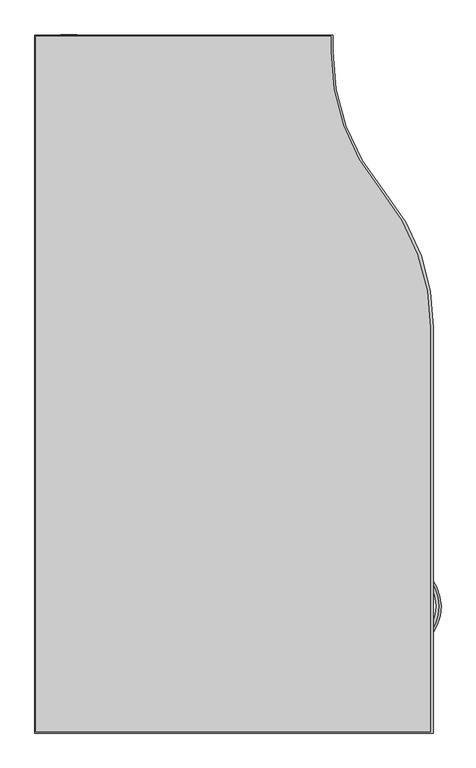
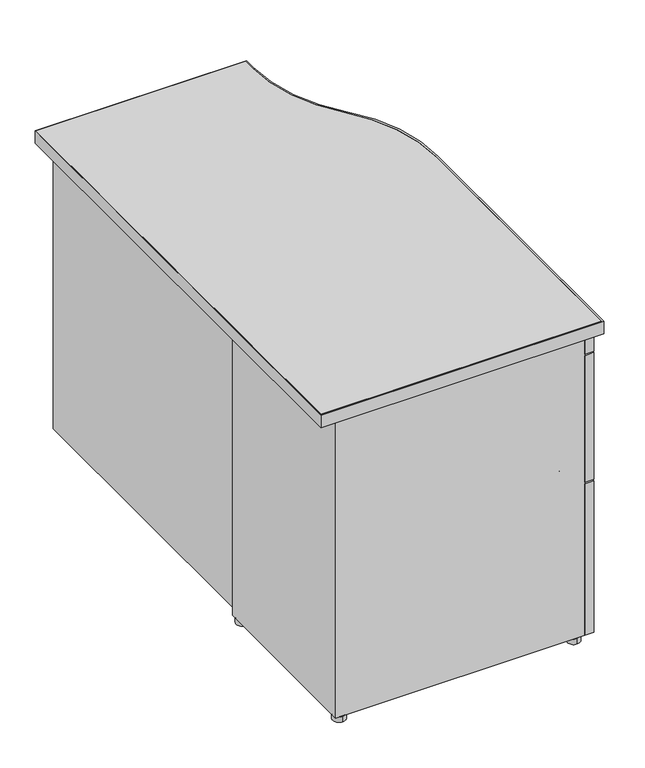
"""IFC4 building model written with IfcOpenShell, lengths in millimetres: furniture geometry, Steelcase - Kick Freestanding - Desk - Single Pedestal Transition Return - Full Modesty Panel : 18D x 42W - Left - File/File."""

from ifc_helpers import new_model, si_unit, point, frame, frame_2d, origin, origin_with_axes, place, context, project, spatial, polyline, circle_curve, ellipse_curve, trimmed, segment, composite_curve, outline, extrude, source, transform, mapped, element, save
from ifc_brep_helpers import plane_surface, cylinder_surface, revolved_surface, extruded_surface, advanced_brep


def furniture_ecf0446c(model_context):
    return source(origin(), model_context, "Body", "SolidModel", [
        advanced_brep(
        [(2760.5907209, -1469.2132511, 586.4818798), (2760.5907209, -1469.2132511, 569.2783404), (2759.9247042, -1370.0632386, 586.4818798), (2759.9247042, -1370.0632386, 569.2783404)],
        [
            (0, 1, ellipse_curve(frame((2760.5907209, -1469.2132511, 577.8801101), z_axis=(-0.7327226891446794, -0.6805273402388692, 0.0), x_axis=(0.0, 0.0, -1.0)), 8.6017697, 3.6448177)),
            (1, 0, ellipse_curve(frame((2760.5907209, -1469.2132511, 577.8801101), z_axis=(-0.7327226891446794, -0.6805273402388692, 0.0), x_axis=(0.0, 0.0, -1.0)), 8.6017697, 3.6448177)),
            (2, 3, ellipse_curve(frame((2759.9247042, -1370.0632386, 577.8801101), z_axis=(-0.7417987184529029, 0.670622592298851, 0.0), x_axis=(0.0, 0.0, -1.0)), 8.6017697, 3.6448177)),
            (3, 2, ellipse_curve(frame((2759.9247042, -1370.0632386, 577.8801101), z_axis=(-0.7417987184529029, 0.670622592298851, 0.0), x_axis=(0.0, 0.0, -1.0)), 8.6017697, 3.6448177)),
            (3, 1, circle_curve(frame((2714.8305889, -1419.9433908, 569.2783404), z_axis=(0.0, 0.0, -1.0), x_axis=(0.6805273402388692, -0.7327226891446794, 0.0)), 67.2421655)),
            (0, 2, circle_curve(frame((2714.8305889, -1419.9433908, 586.4818798), z_axis=(0.0, 0.0, 1.0), x_axis=(0.6805273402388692, -0.7327226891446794, 0.0)), 67.2421655)),
        ],
        [
            plane_surface(frame((2761.3542952, -1470.0353903, 0.0), z_axis=(-0.7327226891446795, -0.6805273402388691, 0.0), x_axis=(0.0, 0.0, 1.0))),
            plane_surface(frame((2760.6771651, -1369.2309157, 0.0), z_axis=(-0.7417987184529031, 0.6706225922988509, 0.0), x_axis=(0.0, 0.0, 1.0))),
            revolved_surface(trimmed(ellipse_curve(frame((2760.5907209, -1469.2132511, 577.8801101), z_axis=(-0.7327226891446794, -0.6805273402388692, 0.0), x_axis=(0.0, 0.0, -1.0)), 8.6017697, 3.6448177), [point((2760.5907209, -1469.2132511, 586.4818798))], [point((2760.5907209, -1469.2132511, 569.2783404))], True, "CARTESIAN"), (2714.8305889, -1419.9433908, 0.0), (0.0, 0.0, 1.0)),
            revolved_surface(trimmed(ellipse_curve(frame((2760.5907209, -1469.2132511, 577.8801101), z_axis=(-0.7327226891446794, -0.6805273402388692, 0.0), x_axis=(0.0, 0.0, -1.0)), 8.6017697, 3.6448177), [point((2760.5907209, -1469.2132511, 569.2783404))], [point((2760.5907209, -1469.2132511, 586.4818798))], True, "CARTESIAN"), (2714.8305889, -1419.9433908, 0.0), (0.0, 0.0, 1.0)),
        ],
        [
            (0, [[1, 2]]),
            (1, [[3, 4]]),
            (2, [[5, -1, 6, -4]]),
            (3, [[-6, -2, -5, -3]]),
        ],
    ),
        advanced_brep(
        [(2760.5907209, -1469.2132511, 293.5881298), (2760.5907209, -1469.2132511, 276.3845904), (2759.9247042, -1370.0632386, 293.5881298), (2759.9247042, -1370.0632386, 276.3845904)],
        [
            (0, 1, ellipse_curve(frame((2760.5907209, -1469.2132511, 284.9863601), z_axis=(-0.7327226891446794, -0.6805273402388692, 0.0), x_axis=(0.0, 0.0, -1.0)), 8.6017697, 3.6448177)),
            (1, 0, ellipse_curve(frame((2760.5907209, -1469.2132511, 284.9863601), z_axis=(-0.7327226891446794, -0.6805273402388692, 0.0), x_axis=(0.0, 0.0, -1.0)), 8.6017697, 3.6448177)),
            (2, 3, ellipse_curve(frame((2759.9247042, -1370.0632386, 284.9863601), z_axis=(-0.7417987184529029, 0.670622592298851, 0.0), x_axis=(0.0, 0.0, -1.0)), 8.6017697, 3.6448177)),
            (3, 2, ellipse_curve(frame((2759.9247042, -1370.0632386, 284.9863601), z_axis=(-0.7417987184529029, 0.670622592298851, 0.0), x_axis=(0.0, 0.0, -1.0)), 8.6017697, 3.6448177)),
            (3, 1, circle_curve(frame((2714.8305889, -1419.9433908, 276.3845904), z_axis=(0.0, 0.0, -1.0), x_axis=(0.6805273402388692, -0.7327226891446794, 0.0)), 67.2421655)),
            (0, 2, circle_curve(frame((2714.8305889, -1419.9433908, 293.5881298), z_axis=(0.0, 0.0, 1.0), x_axis=(0.6805273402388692, -0.7327226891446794, 0.0)), 67.2421655)),
        ],
        [
            plane_surface(frame((2761.3542952, -1470.0353903, 0.0), z_axis=(-0.7327226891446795, -0.6805273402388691, 0.0), x_axis=(0.0, 0.0, 1.0))),
            plane_surface(frame((2760.6771651, -1369.2309157, 0.0), z_axis=(-0.7417987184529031, 0.6706225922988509, 0.0), x_axis=(0.0, 0.0, 1.0))),
            revolved_surface(trimmed(ellipse_curve(frame((2760.5907209, -1469.2132511, 284.9863601), z_axis=(-0.7327226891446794, -0.6805273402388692, 0.0), x_axis=(0.0, 0.0, -1.0)), 8.6017697, 3.6448177), [point((2760.5907209, -1469.2132511, 293.5881298))], [point((2760.5907209, -1469.2132511, 276.3845904))], True, "CARTESIAN"), (2714.8305889, -1419.9433908, 0.0), (0.0, 0.0, 1.0)),
            revolved_surface(trimmed(ellipse_curve(frame((2760.5907209, -1469.2132511, 284.9863601), z_axis=(-0.7327226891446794, -0.6805273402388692, 0.0), x_axis=(0.0, 0.0, -1.0)), 8.6017697, 3.6448177), [point((2760.5907209, -1469.2132511, 276.3845904))], [point((2760.5907209, -1469.2132511, 293.5881298))], True, "CARTESIAN"), (2714.8305889, -1419.9433908, 0.0), (0.0, 0.0, 1.0)),
        ],
        [
            (0, [[1, 2]]),
            (1, [[3, 4]]),
            (2, [[5, -1, 6, -4]]),
            (3, [[-6, -2, -5, -3]]),
        ],
    ),
        advanced_brep(
        [(2762.8455764, -1276.6380273, 671.1566635), (2762.8455764, -1256.3180273, 671.1566635), (2759.7468248, -1276.6380273, 671.1566635), (2759.7468248, -1256.3180273, 671.1566635)],
        [
            (0, 1, circle_curve(frame((2762.8455764, -1266.4780273, 671.1566635), z_axis=(1.0, 0.0, 0.0), x_axis=(0.0, 1.0, 0.0)), 10.16)),
            (1, 0, circle_curve(frame((2762.8455764, -1266.4780273, 671.1566635), z_axis=(1.0, 0.0, 0.0), x_axis=(0.0, 1.0, 0.0)), 10.16)),
            (2, 3, circle_curve(frame((2759.7468248, -1266.4780273, 671.1566635), z_axis=(-1.0, 0.0, 0.0), x_axis=(0.0, 1.0, 0.0)), 10.16)),
            (3, 2, circle_curve(frame((2759.7468248, -1266.4780273, 671.1566635), z_axis=(-1.0, 0.0, 0.0), x_axis=(0.0, 1.0, 0.0)), 10.16)),
            (0, 2),
            (3, 1),
        ],
        [
            plane_surface(frame((2762.8455764, -1256.3180273, 671.1566635), z_axis=(1.0, 0.0, 0.0), x_axis=(0.0, 0.0, 1.0))),
            plane_surface(frame((2759.7468248, -1256.3180273, 671.1566635), z_axis=(-1.0, 0.0, 0.0), x_axis=(0.0, 0.0, -1.0))),
            cylinder_surface(frame((2759.7468248, -1266.4780273, 671.1566635), z_axis=(1.0, 0.0, 0.0), x_axis=(0.0, 1.0, 0.0)), 10.16),
        ],
        [
            (0, [[1, 2]]),
            (1, [[3, 4]]),
            (2, [[-1, 5, -4, 6]]),
            (2, [[-2, -6, -3, -5]]),
        ],
    ),
        advanced_brep(
        [(2762.8455764, -1467.8140492, 589.4466513), (2762.8455764, -1467.8140492, 566.5866513), (2759.7468248, -1467.8140492, 589.4466513), (2759.7468248, -1467.8140492, 566.5866513)],
        [
            (0, 1, ellipse_curve(frame((2762.8455764, -1467.8140492, 578.0166513), z_axis=(1.0, 0.0, 0.0), x_axis=(0.0, 0.0, -1.0)), 11.43, 8.0054005)),
            (1, 0, ellipse_curve(frame((2762.8455764, -1467.8140492, 578.0166513), z_axis=(1.0, 0.0, 0.0), x_axis=(0.0, 0.0, -1.0)), 11.43, 8.0054005)),
            (2, 3, ellipse_curve(frame((2759.7468248, -1467.8140492, 578.0166513), z_axis=(-1.0, 0.0, 0.0), x_axis=(0.0, 0.0, -1.0)), 11.43, 8.0054005)),
            (3, 2, ellipse_curve(frame((2759.7468248, -1467.8140492, 578.0166513), z_axis=(-1.0, 0.0, 0.0), x_axis=(0.0, 0.0, -1.0)), 11.43, 8.0054005)),
            (0, 2),
            (3, 1),
        ],
        [
            plane_surface(frame((2762.8455764, -1256.3180273, 671.1566635), z_axis=(1.0, 0.0, 0.0), x_axis=(0.0, 0.0, 1.0))),
            plane_surface(frame((2759.7468248, -1256.3180273, 671.1566635), z_axis=(-1.0, 0.0, 0.0), x_axis=(0.0, 0.0, -1.0))),
            extruded_surface(trimmed(ellipse_curve(frame((2755.7590248, -1467.8140492, 578.0166513), z_axis=(1.0, 0.0, 0.0), x_axis=(0.0, 0.0, -1.0)), 11.43, 8.0054005), [point((2755.7590248, -1467.8140492, 589.4466513))], [point((2755.7590248, -1467.8140492, 566.5866513))], True, "CARTESIAN"), (3.098751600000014, 0.0, 0.0), 3.098751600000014),
            extruded_surface(trimmed(ellipse_curve(frame((2755.7590248, -1467.8140492, 578.0166513), z_axis=(1.0, 0.0, 0.0), x_axis=(0.0, 0.0, -1.0)), 11.43, 8.0054005), [point((2755.7590248, -1467.8140492, 566.5866513))], [point((2755.7590248, -1467.8140492, 589.4466513))], True, "CARTESIAN"), (3.098751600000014, 0.0, 0.0), 3.098751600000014),
        ],
        [
            (0, [[1, 2]]),
            (1, [[3, 4]]),
            (2, [[-1, 5, -4, 6]]),
            (3, [[-2, -6, -3, -5]]),
        ],
    ),
        advanced_brep(
        [(2762.8455764, -1370.4852323, 589.4466513), (2762.8455764, -1370.4852323, 566.5866513), (2759.7468248, -1370.4852323, 589.4466513), (2759.7468248, -1370.4852323, 566.5866513)],
        [
            (0, 1, ellipse_curve(frame((2762.8455764, -1370.4852323, 578.0166513), z_axis=(1.0, 0.0, 0.0), x_axis=(0.0, 0.0, -1.0)), 11.43, 8.0054005)),
            (1, 0, ellipse_curve(frame((2762.8455764, -1370.4852323, 578.0166513), z_axis=(1.0, 0.0, 0.0), x_axis=(0.0, 0.0, -1.0)), 11.43, 8.0054005)),
            (2, 3, ellipse_curve(frame((2759.7468248, -1370.4852323, 578.0166513), z_axis=(-1.0, 0.0, 0.0), x_axis=(0.0, 0.0, -1.0)), 11.43, 8.0054005)),
            (3, 2, ellipse_curve(frame((2759.7468248, -1370.4852323, 578.0166513), z_axis=(-1.0, 0.0, 0.0), x_axis=(0.0, 0.0, -1.0)), 11.43, 8.0054005)),
            (0, 2),
            (3, 1),
        ],
        [
            plane_surface(frame((2762.8455764, -1256.3180273, 671.1566635), z_axis=(1.0, 0.0, 0.0), x_axis=(0.0, 0.0, 1.0))),
            plane_surface(frame((2759.7468248, -1256.3180273, 671.1566635), z_axis=(-1.0, 0.0, 0.0), x_axis=(0.0, 0.0, -1.0))),
            extruded_surface(trimmed(ellipse_curve(frame((2755.7590248, -1370.4852323, 578.0166513), z_axis=(1.0, 0.0, 0.0), x_axis=(0.0, 0.0, -1.0)), 11.43, 8.0054005), [point((2755.7590248, -1370.4852323, 589.4466513))], [point((2755.7590248, -1370.4852323, 566.5866513))], True, "CARTESIAN"), (3.098751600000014, 0.0, 0.0), 3.098751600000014),
            extruded_surface(trimmed(ellipse_curve(frame((2755.7590248, -1370.4852323, 578.0166513), z_axis=(1.0, 0.0, 0.0), x_axis=(0.0, 0.0, -1.0)), 11.43, 8.0054005), [point((2755.7590248, -1370.4852323, 566.5866513))], [point((2755.7590248, -1370.4852323, 589.4466513))], True, "CARTESIAN"), (3.098751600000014, 0.0, 0.0), 3.098751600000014),
        ],
        [
            (0, [[1, 2]]),
            (1, [[3, 4]]),
            (2, [[-1, 5, -4, 6]]),
            (3, [[-2, -6, -3, -5]]),
        ],
    ),
        advanced_brep(
        [(2762.8455764, -1466.5790775, 296.5864566), (2762.8455764, -1466.5790775, 273.7264566), (2759.7468248, -1466.5790775, 296.5864566), (2759.7468248, -1466.5790775, 273.7264566)],
        [
            (0, 1, ellipse_curve(frame((2762.8455764, -1466.5790775, 285.1564566), z_axis=(1.0, 0.0, 0.0), x_axis=(0.0, 0.0, -1.0)), 11.43, 8.0054005)),
            (1, 0, ellipse_curve(frame((2762.8455764, -1466.5790775, 285.1564566), z_axis=(1.0, 0.0, 0.0), x_axis=(0.0, 0.0, -1.0)), 11.43, 8.0054005)),
            (2, 3, ellipse_curve(frame((2759.7468248, -1466.5790775, 285.1564566), z_axis=(-1.0, 0.0, 0.0), x_axis=(0.0, 0.0, -1.0)), 11.43, 8.0054005)),
            (3, 2, ellipse_curve(frame((2759.7468248, -1466.5790775, 285.1564566), z_axis=(-1.0, 0.0, 0.0), x_axis=(0.0, 0.0, -1.0)), 11.43, 8.0054005)),
            (0, 2),
            (3, 1),
        ],
        [
            plane_surface(frame((2762.8455764, -1256.3180273, 671.1566635), z_axis=(1.0, 0.0, 0.0), x_axis=(0.0, 0.0, 1.0))),
            plane_surface(frame((2759.7468248, -1256.3180273, 671.1566635), z_axis=(-1.0, 0.0, 0.0), x_axis=(0.0, 0.0, -1.0))),
            extruded_surface(trimmed(ellipse_curve(frame((2755.7590248, -1466.5790775, 285.1564566), z_axis=(1.0, 0.0, 0.0), x_axis=(0.0, 0.0, -1.0)), 11.43, 8.0054005), [point((2755.7590248, -1466.5790775, 296.5864566))], [point((2755.7590248, -1466.5790775, 273.7264566))], True, "CARTESIAN"), (3.098751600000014, 0.0, 0.0), 3.098751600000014),
            extruded_surface(trimmed(ellipse_curve(frame((2755.7590248, -1466.5790775, 285.1564566), z_axis=(1.0, 0.0, 0.0), x_axis=(0.0, 0.0, -1.0)), 11.43, 8.0054005), [point((2755.7590248, -1466.5790775, 273.7264566))], [point((2755.7590248, -1466.5790775, 296.5864566))], True, "CARTESIAN"), (3.098751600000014, 0.0, 0.0), 3.098751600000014),
        ],
        [
            (0, [[1, 2]]),
            (1, [[3, 4]]),
            (2, [[-1, 5, -4, 6]]),
            (3, [[-2, -6, -3, -5]]),
        ],
    ),
        advanced_brep(
        [(2762.8455764, -1369.2502606, 296.5864566), (2762.8455764, -1369.2502606, 273.7264566), (2759.7468248, -1369.2502606, 296.5864566), (2759.7468248, -1369.2502606, 273.7264566)],
        [
            (0, 1, ellipse_curve(frame((2762.8455764, -1369.2502606, 285.1564566), z_axis=(1.0, 0.0, 0.0), x_axis=(0.0, 0.0, -1.0)), 11.43, 8.0054005)),
            (1, 0, ellipse_curve(frame((2762.8455764, -1369.2502606, 285.1564566), z_axis=(1.0, 0.0, 0.0), x_axis=(0.0, 0.0, -1.0)), 11.43, 8.0054005)),
            (2, 3, ellipse_curve(frame((2759.7468248, -1369.2502606, 285.1564566), z_axis=(-1.0, 0.0, 0.0), x_axis=(0.0, 0.0, -1.0)), 11.43, 8.0054005)),
            (3, 2, ellipse_curve(frame((2759.7468248, -1369.2502606, 285.1564566), z_axis=(-1.0, 0.0, 0.0), x_axis=(0.0, 0.0, -1.0)), 11.43, 8.0054005)),
            (0, 2),
            (3, 1),
        ],
        [
            plane_surface(frame((2762.8455764, -1256.3180273, 671.1566635), z_axis=(1.0, 0.0, 0.0), x_axis=(0.0, 0.0, 1.0))),
            plane_surface(frame((2759.7468248, -1256.3180273, 671.1566635), z_axis=(-1.0, 0.0, 0.0), x_axis=(0.0, 0.0, -1.0))),
            extruded_surface(trimmed(ellipse_curve(frame((2755.7590248, -1369.2502606, 285.1564566), z_axis=(1.0, 0.0, 0.0), x_axis=(0.0, 0.0, -1.0)), 11.43, 8.0054005), [point((2755.7590248, -1369.2502606, 296.5864566))], [point((2755.7590248, -1369.2502606, 273.7264566))], True, "CARTESIAN"), (3.098751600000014, 0.0, 0.0), 3.098751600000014),
            extruded_surface(trimmed(ellipse_curve(frame((2755.7590248, -1369.2502606, 285.1564566), z_axis=(1.0, 0.0, 0.0), x_axis=(0.0, 0.0, -1.0)), 11.43, 8.0054005), [point((2755.7590248, -1369.2502606, 273.7264566))], [point((2755.7590248, -1369.2502606, 296.5864566))], True, "CARTESIAN"), (3.098751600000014, 0.0, 0.0), 3.098751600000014),
        ],
        [
            (0, [[1, 2]]),
            (1, [[3, 4]]),
            (2, [[-1, 5, -4, 6]]),
            (3, [[-2, -6, -3, -5]]),
        ],
    ),
        extrude(outline(polyline([(2759.7468248, -1215.3776054), (2759.7468248, -1600.3145982), (2739.8077764, -1600.3145982), (2739.8077764, -1215.3776054), (2759.7468248, -1215.3776054)])), frame((0.0, 0.0, 360.6545895), z_axis=(0.0, 0.0, 1.0), x_axis=(1.0, 0.0, 0.0)), (0.0, 0.0, 1.0), 288.9250242),
        extrude(outline(polyline([(2759.7468248, -1215.3776054), (2759.7468248, -1600.3145982), (2739.8077764, -1600.3145982), (2739.8077764, -1215.3776054), (2759.7468248, -1215.3776054)])), frame((0.0, 0.0, 12.7), z_axis=(0.0, 0.0, 1.0), x_axis=(1.0, 0.0, 0.0)), (0.0, 0.0, 1.0), 344.7796016),
        extrude(outline(polyline([(2759.7468248, -1215.3776054), (2759.7468248, -1600.3145982), (2739.8077764, -1600.3145982), (2739.8077764, -1215.3776054), (2759.7468248, -1215.3776054)])), frame((0.0, 0.0, 652.7545653), z_axis=(0.0, 0.0, 1.0), x_axis=(1.0, 0.0, 0.0)), (0.0, 0.0, 1.0), 40.6400339),
        extrude(outline(composite_curve([segment(trimmed(circle_curve(frame_2d((2217.7074425, -1587.7382652)), 13.97), [point((2217.7074425, -1601.7082652))], [point((2217.7074425, -1573.7682652))], False, "CARTESIAN"), True, "CONTINUOUS"), segment(trimmed(circle_curve(frame_2d((2217.7074425, -1587.7382652)), 13.97), [point((2217.7074425, -1573.7682652))], [point((2217.7074425, -1601.7082652))], False, "CARTESIAN"), True, "CONTINUOUS")], self_intersect=False)), origin_with_axes(), (0.0, 0.0, 1.0), 12.446),
        extrude(outline(composite_curve([segment(trimmed(circle_curve(frame_2d((2722.6594425, -1587.7382652)), 13.97), [point((2722.6594425, -1601.7082652))], [point((2722.6594425, -1573.7682652))], False, "CARTESIAN"), True, "CONTINUOUS"), segment(trimmed(circle_curve(frame_2d((2722.6594425, -1587.7382652)), 13.97), [point((2722.6594425, -1573.7682652))], [point((2722.6594425, -1601.7082652))], False, "CARTESIAN"), True, "CONTINUOUS")], self_intersect=False)), origin_with_axes(), (0.0, 0.0, 1.0), 12.446),
        extrude(outline(composite_curve([segment(trimmed(circle_curve(frame_2d((2217.7074425, -1228.0776054)), 13.97), [point((2217.7074425, -1242.0476054))], [point((2217.7074425, -1214.1076054))], False, "CARTESIAN"), True, "CONTINUOUS"), segment(trimmed(circle_curve(frame_2d((2217.7074425, -1228.0776054)), 13.97), [point((2217.7074425, -1214.1076054))], [point((2217.7074425, -1242.0476054))], False, "CARTESIAN"), True, "CONTINUOUS")], self_intersect=False)), origin_with_axes(), (0.0, 0.0, 1.0), 12.446),
        extrude(outline(composite_curve([segment(trimmed(circle_curve(frame_2d((2723.4604252, -1228.0776054)), 12.7), [point((2723.4604252, -1240.7776054))], [point((2723.4604252, -1215.3776054))], False, "CARTESIAN"), True, "CONTINUOUS"), segment(trimmed(circle_curve(frame_2d((2723.4604252, -1228.0776054)), 12.7), [point((2723.4604252, -1215.3776054))], [point((2723.4604252, -1240.7776054))], False, "CARTESIAN"), True, "CONTINUOUS")], self_intersect=False)), origin_with_axes(), (0.0, 0.0, 1.0), 12.446),
        extrude(outline(polyline([(2203.2328248, -1215.3776054), (2739.8077764, -1215.3776054), (2739.8077764, -1600.3145982), (2203.2328248, -1600.3145982), (2203.2328248, -1215.3776054)]), holes=[polyline([(2228.6328241, -1235.2149846), (2228.6328241, -1580.4771996), (2719.2338142, -1580.4771996), (2719.2338142, -1235.2149846), (2228.6328241, -1235.2149846)])]), frame((0.0, 0.0, 12.446), z_axis=(0.0, 0.0, 1.0), x_axis=(1.0, 0.0, 0.0)), (0.0, 0.0, 1.0), 682.498),
        extrude(outline(composite_curve([segment(polyline([(2616.8176592, -547.8051152), (2616.8176592, -572.1320079)]), True, "CONTINUOUS"), segment(trimmed(circle_curve(frame_2d((2941.6463505, -574.5942763)), 324.8380233), [point((2616.8176592, -572.1320079))], [point((2692.5587903, -783.1011797))], True, "CARTESIAN"), True, "CONTINUOUS"), segment(trimmed(circle_curve(frame_2d((2440.4841513, -994.1085152)), 328.7335079), [point((2692.5587903, -783.1011797))], [point((2769.2176592, -994.1085152))], False, "CARTESIAN"), True, "CONTINUOUS"), segment(polyline([(2769.2176592, -994.1085152), (2769.2176592, -1611.8619332), (2164.8500425, -1611.8619332), (2164.8500425, -547.8051152), (2616.8176592, -547.8051152)]), True, "CONTINUOUS")], self_intersect=False)), frame((0.0, 0.0, 694.944), z_axis=(0.0, 0.0, 1.0), x_axis=(1.0, 0.0, 0.0)), (0.0, 0.0, 1.0), 28.956),
        extrude(outline(composite_curve([segment(polyline([(2619.7894255, -546.8145152), (2619.7894255, -571.0836731)]), True, "CONTINUOUS"), segment(trimmed(circle_curve(frame_2d((2951.3460478, -571.0836731)), 331.5566223), [point((2619.7894255, -571.0836731))], [point((2699.261298, -786.4509703))], True, "CARTESIAN"), True, "CONTINUOUS"), segment(trimmed(circle_curve(frame_2d((2463.6949436, -987.7058619)), 309.8306613), [point((2699.261298, -786.4509703))], [point((2773.4594425, -994.1085152))], False, "CARTESIAN"), True, "CONTINUOUS"), segment(polyline([(2773.4594425, -994.1085152), (2773.4594425, -1613.6145152), (2163.8594425, -1613.6145152), (2163.8594425, -546.8145152), (2619.7894255, -546.8145152)]), True, "CONTINUOUS")], self_intersect=False), holes=[composite_curve([segment(polyline([(2616.8176592, -547.8051152), (2164.8500425, -547.8051152), (2164.8500425, -1611.8619332), (2769.2176592, -1611.8619332), (2769.2176592, -994.1085152)]), True, "CONTINUOUS"), segment(trimmed(circle_curve(frame_2d((2440.4841513, -994.1085152)), 328.7335079), [point((2769.2176592, -994.1085152))], [point((2692.5587903, -783.1011797))], True, "CARTESIAN"), True, "CONTINUOUS"), segment(trimmed(circle_curve(frame_2d((2941.6463505, -574.5942763)), 324.8380233), [point((2692.5587903, -783.1011797))], [point((2616.8176592, -572.1320079))], False, "CARTESIAN"), True, "CONTINUOUS"), segment(polyline([(2616.8176592, -572.1320079), (2616.8176592, -547.8051152)]), True, "CONTINUOUS")], self_intersect=False)]), frame((0.0, 0.0, 694.944), z_axis=(0.0, 0.0, 1.0), x_axis=(1.0, 0.0, 0.0)), (0.0, 0.0, 1.0), 28.956),
        extrude(outline(polyline([(2228.6328241, -546.0525152), (2228.6328241, -1215.3776054), (2203.2328248, -1215.3776054), (2203.2328248, -546.0525152), (2228.6328241, -546.0525152)])), frame((0.0, 0.0, 31.242), z_axis=(0.0, 0.0, 1.0), x_axis=(1.0, 0.0, 0.0)), (0.0, 0.0, 1.0), 663.702),
    ])


if __name__ == "__main__":
    model = new_model("IFC4")
    model_context = context("Model", 3, world=origin())
    ifc_project = project(units=[si_unit("LENGTHUNIT", "METRE", prefix="MILLI")], contexts=[model_context])
    site = spatial("IfcSite", under=ifc_project)
    building = spatial("IfcBuilding", under=site)
    placement = place(None, origin())
    furniture_shape = furniture_ecf0446c(model_context)
    element("IfcFurniture", 1, ObjectType="Steelcase - Kick Freestanding - Desk - Single Pedestal Transition Return - Full Modesty Panel : 18D x 42W - Left - File/File", at=placement, inside=building, context=model_context, shape_type="MappedRepresentation", body=[
        mapped(furniture_shape, transform((0.0, 0.0, 0.0), x_axis=(1.0, 0.0, 0.0), y_axis=(0.0, 1.0, 0.0), z_axis=(0.0, 0.0, 1.0))),
    ])
    save(model, "model.ifc")
